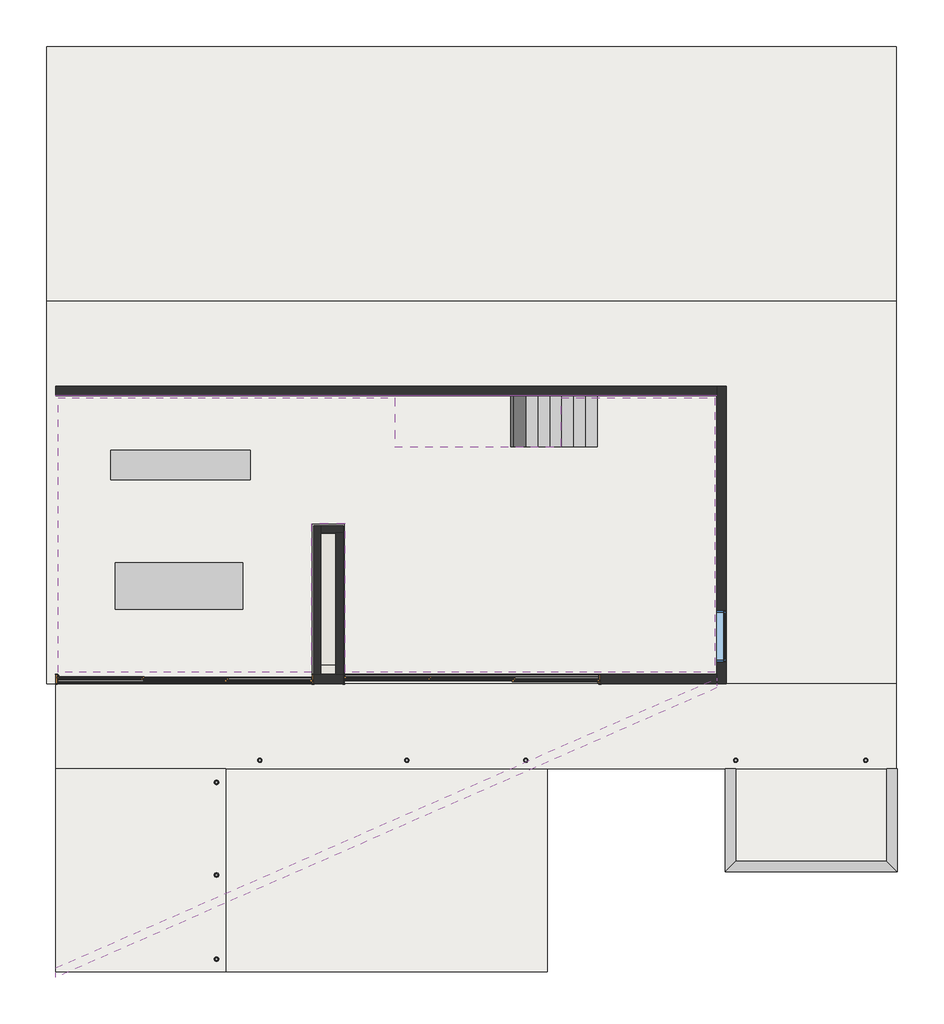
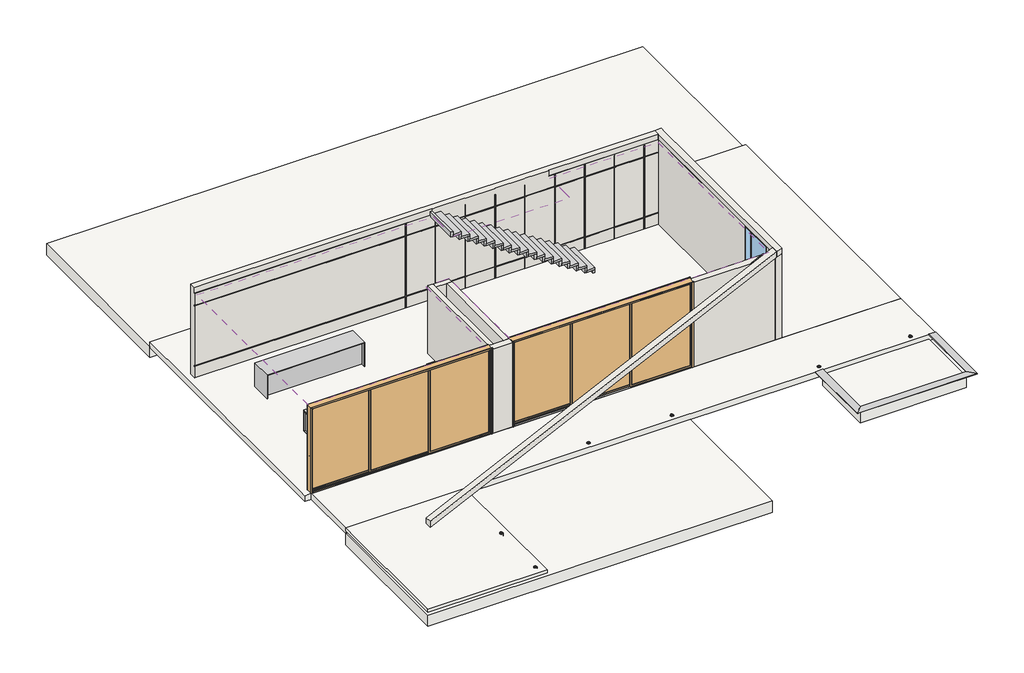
# One storey, incomplete: 12 proxies, 8 light fixtures, 8 walls, 7 slabs, 2 doors, 2 furniture elements, 1 covering, 1 stair flight, 1 window.
"""IFC4 building model written with IfcOpenShell, lengths in millimetres."""

from ifc_helpers import new_model, si_unit, point, frame, frame_2d, origin, place, context, project, spatial, polyline, circle_curve, trimmed, segment, composite_curve, outline, extrude, faceted_brep, transform, mapped, element, save
from components import generic_models_75064c97, door_300x600_54ae6d1d, furniture_6b048b13, mesa_industrial_001_mesa_industrial_001_cb8feb8a, light_fixture_10b4d906, stair_flight_5e0610f6, paredes_1_paredes_1_85ae5345, m_fixo_parede_completa_preta_3m_307ec9fa

model = new_model("IFC4")

# Units and contexts
model_context = context("Model", 3, world=origin())
ifc_project = project(units=[si_unit("LENGTHUNIT", "METRE", prefix="MILLI")], contexts=[model_context])

# Site, building, storey
site = spatial("IfcSite", under=ifc_project)
building = spatial("IfcBuilding", under=site)
storey = spatial("IfcBuildingStorey", under=building, Name="TÉRREO", Elevation=500.0)

# Proxies
placement = place(None, origin())
generic_models_shape = generic_models_75064c97(model_context)
element("IfcBuildingElementProxy", 1, Name="Modelos genéricos 1 : Modelos genéricos 1", ObjectType="Modelos genéricos 1 : Modelos genéricos 1", at=placement, inside=storey, context=model_context, shape_type="MappedRepresentation", body=[
    mapped(generic_models_shape, transform((0.0, 0.0, 0.0), x_axis=(1.0, 0.0, 0.0), y_axis=(0.0, 1.0, 0.0), z_axis=(0.0, 0.0, 1.0))),
])
element("IfcBuildingElementProxy", 2, Name="FRISO 01", ObjectType="FRISO 01", at=placement, inside=storey, context=model_context, shape_type="SweptSolid", body=[
    extrude(outline(polyline([(-4251.5118355, 7561.0881727), (-4221.5118355, 7561.0881727), (-4221.5118355, 7546.0881727), (-4251.5118355, 7546.0881727), (-4251.5118355, 7561.0881727)])), frame((0.0, 0.0, 500.0), z_axis=(0.0, 0.0, 1.0), x_axis=(1.0, 0.0, 0.0)), (0.0, 0.0, 1.0), 2972.0),
])
element("IfcBuildingElementProxy", 3, Name="FRISO 01", ObjectType="FRISO 01", at=placement, inside=storey, context=model_context, shape_type="SweptSolid", body=[
    extrude(outline(polyline([(-3251.5118355, 7561.0881727), (-3221.5118355, 7561.0881727), (-3221.5118355, 7546.0881727), (-3251.5118355, 7546.0881727), (-3251.5118355, 7561.0881727)])), frame((0.0, 0.0, 500.0), z_axis=(0.0, 0.0, 1.0), x_axis=(1.0, 0.0, 0.0)), (0.0, 0.0, 1.0), 2972.0),
])
element("IfcBuildingElementProxy", 4, Name="FRISO 01", ObjectType="FRISO 01", at=placement, inside=storey, context=model_context, shape_type="SweptSolid", body=[
    extrude(outline(polyline([(-2251.5118355, 7561.0881727), (-2221.5118355, 7561.0881727), (-2221.5118355, 7546.0881727), (-2251.5118355, 7546.0881727), (-2251.5118355, 7561.0881727)])), frame((0.0, 0.0, 500.0), z_axis=(0.0, 0.0, 1.0), x_axis=(1.0, 0.0, 0.0)), (0.0, 0.0, 1.0), 2972.0),
])
element("IfcBuildingElementProxy", 5, Name="FRISO 01", ObjectType="FRISO 01", at=placement, inside=storey, context=model_context, shape_type="SweptSolid", body=[
    extrude(outline(polyline([(-1251.5118355, 7561.0881727), (-1221.5118355, 7561.0881727), (-1221.5118355, 7546.0881727), (-1251.5118355, 7546.0881727), (-1251.5118355, 7561.0881727)])), frame((0.0, 0.0, 500.0), z_axis=(0.0, 0.0, 1.0), x_axis=(1.0, 0.0, 0.0)), (0.0, 0.0, 1.0), 2972.0),
])
element("IfcBuildingElementProxy", 6, Name="FRISO 01", ObjectType="FRISO 01", at=placement, inside=storey, context=model_context, shape_type="SweptSolid", body=[
    extrude(outline(polyline([(-251.5118355, 7561.0881727), (-221.5118355, 7561.0881727), (-221.5118355, 7546.0881727), (-251.5118355, 7546.0881727), (-251.5118355, 7561.0881727)])), frame((0.0, 0.0, 500.0), z_axis=(0.0, 0.0, 1.0), x_axis=(1.0, 0.0, 0.0)), (0.0, 0.0, 1.0), 2972.0),
])
element("IfcBuildingElementProxy", 7, Name="FRISO 01", ObjectType="FRISO 01", at=placement, inside=storey, context=model_context, shape_type="SweptSolid", body=[
    extrude(outline(polyline([(748.4881645, 7561.0881727), (778.4881645, 7561.0881727), (778.4881645, 7546.0881727), (748.4881645, 7546.0881727), (748.4881645, 7561.0881727)])), frame((0.0, 0.0, 500.0), z_axis=(0.0, 0.0, 1.0), x_axis=(1.0, 0.0, 0.0)), (0.0, 0.0, 1.0), 2972.0),
])
element("IfcBuildingElementProxy", 8, Name="FRISO 01", ObjectType="FRISO 01", at=placement, inside=storey, context=model_context, shape_type="SweptSolid", body=[
    extrude(outline(polyline([(1748.4881645, 7561.0881727), (1778.4881645, 7561.0881727), (1778.4881645, 7546.0881727), (1748.4881645, 7546.0881727), (1748.4881645, 7561.0881727)])), frame((0.0, 0.0, 500.0), z_axis=(0.0, 0.0, 1.0), x_axis=(1.0, 0.0, 0.0)), (0.0, 0.0, 1.0), 2972.0),
])
element("IfcBuildingElementProxy", 9, Name="FRISO 01", ObjectType="FRISO 01", at=placement, inside=storey, context=model_context, shape_type="SweptSolid", body=[
    extrude(outline(polyline([(2748.4881645, 7561.0881727), (2778.4881645, 7561.0881727), (2778.4881645, 7546.0881727), (2748.4881645, 7546.0881727), (2748.4881645, 7561.0881727)])), frame((0.0, 0.0, 500.0), z_axis=(0.0, 0.0, 1.0), x_axis=(1.0, 0.0, 0.0)), (0.0, 0.0, 1.0), 2972.0),
])
element("IfcBuildingElementProxy", 10, Name="FRISO 01", ObjectType="FRISO 01", at=placement, inside=storey, context=model_context, shape_type="SweptSolid", body=[
    extrude(outline(polyline([(3748.4881645, 7561.0881727), (3778.4881645, 7561.0881727), (3778.4881645, 7546.0881727), (3748.4881645, 7546.0881727), (3748.4881645, 7561.0881727)])), frame((0.0, 0.0, 500.0), z_axis=(0.0, 0.0, 1.0), x_axis=(1.0, 0.0, 0.0)), (0.0, 0.0, 1.0), 2972.0),
])
element("IfcBuildingElementProxy", 11, Name="FRISO 01", ObjectType="FRISO 01", at=placement, inside=storey, context=model_context, shape_type="SweptSolid", body=[
    extrude(outline(polyline([(4238.4881645, 7561.0881727), (4238.4881645, 7546.0881727), (-11321.5118355, 7546.0881727), (-11321.5118355, 7561.0881727), (4238.4881645, 7561.0881727)])), frame((0.0, 0.0, 3040.0), z_axis=(0.0, 0.0, 1.0), x_axis=(1.0, 0.0, 0.0)), (0.0, 0.0, 1.0), 30.0),
])
element("IfcBuildingElementProxy", 12, Name="FRISO 01", ObjectType="FRISO 01", at=placement, inside=storey, context=model_context, shape_type="SweptSolid", body=[
    extrude(outline(polyline([(4238.4881645, 7561.0881727), (4238.4881645, 7546.0881727), (-11321.5118355, 7546.0881727), (-11321.5118355, 7561.0881727), (4238.4881645, 7561.0881727)])), frame((0.0, 0.0, 900.0), z_axis=(0.0, 0.0, 1.0), x_axis=(1.0, 0.0, 0.0)), (0.0, 0.0, 1.0), 30.0),
])

# Covering
element("IfcCovering", 13, ObjectType="CE_Gesso", at=placement, inside=storey, context=model_context, shape_type="SweptSolid", body=[
    extrude(outline(polyline([(-11271.5118355, 1036.629058), (-11271.5118355, 7496.0881727), (-3341.5118355, 7496.0881727), (-3341.5118355, 6346.0881727), (568.4881645, 6346.0881727), (568.4881645, 7496.0881727), (4188.4881645, 7496.0881727), (4188.4881645, 1036.629058), (-4511.5118355, 1036.629058), (-4511.5118355, 4536.629058), (-5306.5118355, 4536.629058), (-5306.5118355, 1036.629058), (-11271.5118355, 1036.629058)])), frame((0.0, 0.0, 3460.0), z_axis=(0.0, 0.0, 1.0), x_axis=(1.0, 0.0, 0.0)), (0.0, 0.0, 1.0), 57.0),
])

# Doors
door_300x600_shape = door_300x600_54ae6d1d(model_context)
element("IfcDoor", 14, ObjectType="porta de correr uma direção : 300X600", at=placement, inside=storey, context=model_context, shape_type="MappedRepresentation", body=[
    mapped(door_300x600_shape, transform((-8291.5118355, 876.629058, 500.0), x_axis=(-1.0, 0.0, 0.0), y_axis=(0.0, -1.0, 0.0), z_axis=(0.0, 0.0, 1.0))),
])
element("IfcDoor", 15, ObjectType="porta de correr uma direção : 300X600", at=placement, inside=storey, context=model_context, shape_type="MappedRepresentation", body=[
    mapped(door_300x600_shape, transform((-1531.5118355, 876.629058, 500.0), x_axis=(1.0, 0.0, 0.0), y_axis=(0.0, 1.0, 0.0), z_axis=(0.0, 0.0, 1.0))),
])

# Furniture
furniture_shape = furniture_6b048b13(model_context)
element("IfcFurniture", 16, ObjectType="ILHA SALA 01 : ILHA SALA 01", at=placement, inside=storey, context=model_context, shape_type="MappedRepresentation", body=[
    mapped(furniture_shape, transform((0.0, 0.0, 0.0), x_axis=(1.0, 0.0, 0.0), y_axis=(0.0, 1.0, 0.0), z_axis=(0.0, 0.0, 1.0))),
])
mesa_industrial_001_mesa_industrial_001_shape = mesa_industrial_001_mesa_industrial_001_cb8feb8a(model_context)
element("IfcFurniture", 17, ObjectType="MESA INDUSTRIAL_001 : MESA INDUSTRIAL_001", at=placement, inside=storey, context=model_context, shape_type="MappedRepresentation", body=[
    mapped(mesa_industrial_001_mesa_industrial_001_shape, transform((-8421.5118355, 3066.0881727, 500.0), x_axis=(-1.0, 0.0, 0.0), y_axis=(0.0, -1.0, 0.0), z_axis=(0.0, 0.0, 1.0))),
])

# Light fixtures
light_fixture_shape = light_fixture_10b4d906(model_context)
element("IfcLightFixture", 18, ObjectType="Iluminação de caminho - Redonda embutida - Com base no chão : Iluminação de caminho - Redonda embutida - Com base no chão", at=placement, inside=storey, context=model_context, shape_type="MappedRepresentation", body=[
    mapped(light_fixture_shape, transform((-7541.5118355, -5713.9118273, 500.0), x_axis=(1.0, 0.0, 0.0), y_axis=(0.0, 1.0, 0.0), z_axis=(0.0, 0.0, 1.0))),
])
element("IfcLightFixture", 19, ObjectType="Iluminação de caminho - Redonda embutida - Com base no chão : Iluminação de caminho - Redonda embutida - Com base no chão", at=placement, inside=storey, context=model_context, shape_type="MappedRepresentation", body=[
    mapped(light_fixture_shape, transform((-7541.5118355, -1553.370942, 500.0), x_axis=(1.0, 0.0, 0.0), y_axis=(0.0, 1.0, 0.0), z_axis=(0.0, 0.0, 1.0))),
])
element("IfcLightFixture", 20, ObjectType="Iluminação de caminho - Redonda embutida - Com base no chão : Iluminação de caminho - Redonda embutida - Com base no chão", at=placement, inside=storey, context=model_context, shape_type="MappedRepresentation", body=[
    mapped(light_fixture_shape, transform((-7541.5118355, -3733.370942, 500.0), x_axis=(1.0, 0.0, 0.0), y_axis=(0.0, 1.0, 0.0), z_axis=(0.0, 0.0, 1.0))),
])
element("IfcLightFixture", 21, ObjectType="Iluminação de caminho - Redonda embutida - Com base no chão : Iluminação de caminho - Redonda embutida - Com base no chão", at=placement, inside=storey, context=model_context, shape_type="MappedRepresentation", body=[
    mapped(light_fixture_shape, transform((-6521.5118355, -1033.370942, 500.0), x_axis=(1.0, 0.0, 0.0), y_axis=(0.0, 1.0, 0.0), z_axis=(0.0, 0.0, 1.0))),
])
element("IfcLightFixture", 22, ObjectType="Iluminação de caminho - Redonda embutida - Com base no chão : Iluminação de caminho - Redonda embutida - Com base no chão", at=placement, inside=storey, context=model_context, shape_type="MappedRepresentation", body=[
    mapped(light_fixture_shape, transform((-3061.5118355, -1033.370942, 500.0), x_axis=(1.0, 0.0, 0.0), y_axis=(0.0, 1.0, 0.0), z_axis=(0.0, 0.0, 1.0))),
])
element("IfcLightFixture", 23, ObjectType="Iluminação de caminho - Redonda embutida - Com base no chão : Iluminação de caminho - Redonda embutida - Com base no chão", at=placement, inside=storey, context=model_context, shape_type="MappedRepresentation", body=[
    mapped(light_fixture_shape, transform((-261.5118355, -1033.370942, 500.0), x_axis=(1.0, 0.0, 0.0), y_axis=(0.0, 1.0, 0.0), z_axis=(0.0, 0.0, 1.0))),
])
element("IfcLightFixture", 24, ObjectType="Iluminação de caminho - Redonda embutida - Com base no chão : Iluminação de caminho - Redonda embutida - Com base no chão", at=placement, inside=storey, context=model_context, shape_type="MappedRepresentation", body=[
    mapped(light_fixture_shape, transform((4678.4881645, -1033.370942, 500.0), x_axis=(1.0, 0.0, 0.0), y_axis=(0.0, 1.0, 0.0), z_axis=(0.0, 0.0, 1.0))),
])
element("IfcLightFixture", 25, ObjectType="Iluminação de caminho - Redonda embutida - Com base no chão : Iluminação de caminho - Redonda embutida - Com base no chão", at=placement, inside=storey, context=model_context, shape_type="MappedRepresentation", body=[
    mapped(light_fixture_shape, transform((7738.4881645, -1033.370942, 500.0), x_axis=(1.0, 0.0, 0.0), y_axis=(0.0, 1.0, 0.0), z_axis=(0.0, 0.0, 1.0))),
])

# Slabs
element("IfcSlab", 26, ObjectType="Grama - Aterro - 40cm", at=placement, inside=storey, context=model_context, shape_type="SweptSolid", body=[
    extrude(outline(polyline([(-11541.5118355, 15766.0881727), (8458.4881645, 15766.0881727), (8458.4881645, 9766.0881727), (-11541.5118355, 9766.0881727), (-11541.5118355, 15766.0881727)])), frame((0.0, 0.0, -50.0), z_axis=(0.0, 0.0, 1.0), x_axis=(1.0, 0.0, 0.0)), (0.0, 0.0, 1.0), 400.0),
])
element("IfcSlab", 27, ObjectType="Grama - Aterro - 40cm", at=placement, inside=storey, context=model_context, shape_type="SweptSolid", body=[
    extrude(outline(polyline([(-11321.5118355, -1233.370942), (238.4881645, -1233.370942), (238.4881645, -6013.9118273), (-11321.5118355, -6013.9118273), (-11321.5118355, -1233.370942)])), frame((0.0, 0.0, -100.0), z_axis=(0.0, 0.0, 1.0), x_axis=(1.0, 0.0, 0.0)), (0.0, 0.0, 1.0), 400.0),
])
element("IfcSlab", 28, ObjectType="Grama - Aterro - 40cm", at=placement, inside=storey, context=model_context, shape_type="SweptSolid", body=[
    extrude(outline(polyline([(4678.4881645, -1233.370942), (8238.4881645, -1233.370942), (8238.4881645, -3413.370942), (4678.4881645, -3413.370942), (4678.4881645, -1233.370942)])), frame((0.0, 0.0, -50.0), z_axis=(0.0, 0.0, 1.0), x_axis=(1.0, 0.0, 0.0)), (0.0, 0.0, 1.0), 400.0),
])
element("IfcSlab", 29, ObjectType="Concreto Escuro - 20cm", at=placement, inside=storey, context=model_context, shape_type="SweptSolid", body=[
    extrude(outline(polyline([(-11321.5118355, -1233.370942), (-11321.5118355, 766.629058), (8458.4881645, 766.629058), (8458.4881645, -1233.370942), (-11321.5118355, -1233.370942)]), holes=[composite_curve([segment(trimmed(circle_curve(frame_2d((-6521.5118355, -1033.370942)), 51.0), [point((-6521.5118355, -1084.370942))], [point((-6521.5118355, -982.370942))], True, "CARTESIAN"), True, "CONTINUOUS"), segment(trimmed(circle_curve(frame_2d((-6521.5118355, -1033.370942)), 51.0), [point((-6521.5118355, -982.370942))], [point((-6521.5118355, -1084.370942))], True, "CARTESIAN"), True, "CONTINUOUS")], self_intersect=False), composite_curve([segment(trimmed(circle_curve(frame_2d((-3061.5118355, -1033.370942)), 51.0), [point((-3061.5118355, -1084.370942))], [point((-3061.5118355, -982.370942))], True, "CARTESIAN"), True, "CONTINUOUS"), segment(trimmed(circle_curve(frame_2d((-3061.5118355, -1033.370942)), 51.0), [point((-3061.5118355, -982.370942))], [point((-3061.5118355, -1084.370942))], True, "CARTESIAN"), True, "CONTINUOUS")], self_intersect=False), composite_curve([segment(trimmed(circle_curve(frame_2d((-261.5118355, -1033.370942)), 51.0), [point((-261.5118355, -1084.370942))], [point((-261.5118355, -982.370942))], True, "CARTESIAN"), True, "CONTINUOUS"), segment(trimmed(circle_curve(frame_2d((-261.5118355, -1033.370942)), 51.0), [point((-261.5118355, -982.370942))], [point((-261.5118355, -1084.370942))], True, "CARTESIAN"), True, "CONTINUOUS")], self_intersect=False), composite_curve([segment(trimmed(circle_curve(frame_2d((4678.4881645, -1033.370942)), 51.0), [point((4678.4881645, -1084.370942))], [point((4678.4881645, -982.370942))], True, "CARTESIAN"), True, "CONTINUOUS"), segment(trimmed(circle_curve(frame_2d((4678.4881645, -1033.370942)), 51.0), [point((4678.4881645, -982.370942))], [point((4678.4881645, -1084.370942))], True, "CARTESIAN"), True, "CONTINUOUS")], self_intersect=False), composite_curve([segment(trimmed(circle_curve(frame_2d((7738.4881645, -1033.370942)), 51.0), [point((7738.4881645, -1084.370942))], [point((7738.4881645, -982.370942))], True, "CARTESIAN"), True, "CONTINUOUS"), segment(trimmed(circle_curve(frame_2d((7738.4881645, -1033.370942)), 51.0), [point((7738.4881645, -982.370942))], [point((7738.4881645, -1084.370942))], True, "CARTESIAN"), True, "CONTINUOUS")], self_intersect=False)]), frame((0.0, 0.0, 300.0), z_axis=(0.0, 0.0, 1.0), x_axis=(1.0, 0.0, 0.0)), (0.0, 0.0, 1.0), 200.0),
])
element("IfcSlab", 30, ObjectType="Concreto Escuro - 20cm", at=placement, inside=storey, context=model_context, shape_type="SweptSolid", body=[
    extrude(outline(polyline([(-5256.5118355, 3996.629058), (-4561.5118355, 3996.629058), (-4561.5118355, 986.629058), (-5256.5118355, 986.629058), (-5256.5118355, 3996.629058)])), frame((0.0, 0.0, 500.0), z_axis=(0.0, 0.0, 1.0), x_axis=(1.0, 0.0, 0.0)), (0.0, 0.0, 1.0), 200.0),
])
element("IfcSlab", 31, ObjectType="Madeira Painel - 10cm", at=placement, inside=storey, context=model_context, shape_type="SweptSolid", body=[
    extrude(outline(polyline([(-7321.5118355, -1233.370942), (-7321.5118355, -6013.9118273), (-11321.5118355, -6013.9118273), (-11321.5118355, -1233.370942), (-7321.5118355, -1233.370942)]), holes=[composite_curve([segment(trimmed(circle_curve(frame_2d((-7541.5118355, -5713.9118273)), 51.0), [point((-7541.5118355, -5764.9118273))], [point((-7541.5118355, -5662.9118273))], True, "CARTESIAN"), True, "CONTINUOUS"), segment(trimmed(circle_curve(frame_2d((-7541.5118355, -5713.9118273)), 51.0), [point((-7541.5118355, -5662.9118273))], [point((-7541.5118355, -5764.9118273))], True, "CARTESIAN"), True, "CONTINUOUS")], self_intersect=False), composite_curve([segment(trimmed(circle_curve(frame_2d((-7541.5118355, -1553.370942)), 51.0), [point((-7541.5118355, -1604.370942))], [point((-7541.5118355, -1502.370942))], True, "CARTESIAN"), True, "CONTINUOUS"), segment(trimmed(circle_curve(frame_2d((-7541.5118355, -1553.370942)), 51.0), [point((-7541.5118355, -1502.370942))], [point((-7541.5118355, -1604.370942))], True, "CARTESIAN"), True, "CONTINUOUS")], self_intersect=False), composite_curve([segment(trimmed(circle_curve(frame_2d((-7541.5118355, -3733.370942)), 51.0), [point((-7541.5118355, -3784.370942))], [point((-7541.5118355, -3682.370942))], True, "CARTESIAN"), True, "CONTINUOUS"), segment(trimmed(circle_curve(frame_2d((-7541.5118355, -3733.370942)), 51.0), [point((-7541.5118355, -3682.370942))], [point((-7541.5118355, -3784.370942))], True, "CARTESIAN"), True, "CONTINUOUS")], self_intersect=False)]), frame((0.0, 0.0, 400.0), z_axis=(0.0, 0.0, 1.0), x_axis=(1.0, 0.0, 0.0)), (0.0, 0.0, 1.0), 100.0),
])
element("IfcSlab", 32, ObjectType="Piso Interno - 20cm", at=placement, inside=storey, context=model_context, shape_type="Brep", body=[
    faceted_brep([(8458.4881645, 9766.0881727, 300.0), (8458.4881645, 766.0881727, 300.0), (-11321.5118355, 766.0881727, 300.0), (-11541.5118355, 766.0881727, 300.0), (-11541.5118355, 7766.0881727, 300.0), (-11541.5118355, 9766.0881727, 300.0), (8458.4881645, 9766.0881727, 500.0), (-11541.5118355, 9766.0881727, 500.0), (-11541.5118355, 7766.0881727, 500.0), (-11541.5118355, 766.0881727, 500.0), (-11321.5118355, 766.0881727, 500.0), (8458.4881645, 766.0881727, 500.0)], [[[0, 1, 2, 3, 4, 5]], [[6, 7, 8, 9, 10, 11]], [[1, 0, 6, 11]], [[3, 2, 1, 11, 10, 9]], [[5, 4, 3, 9, 8, 7]], [[0, 5, 7, 6]]]),
])

# Stair flight
stair_flight_shape = stair_flight_5e0610f6(model_context)
element("IfcStairFlight", 33, ObjectType="PLISSADA 7CM", at=placement, inside=storey, context=model_context, shape_type="MappedRepresentation", body=[
    mapped(stair_flight_shape, transform((0.0, 0.0, 0.0), x_axis=(1.0, 0.0, 0.0), y_axis=(0.0, 1.0, 0.0), z_axis=(0.0, 0.0, 1.0))),
])

# Walls
element("IfcWall", 34, ObjectType="Parede Externa - 22cm", at=placement, inside=storey, context=model_context, shape_type="Brep", body=[
    faceted_brep([(4458.4881645, 7766.0881727, 3700.0), (4458.4881645, 7546.0881727, 3700.0), (4458.4881645, 6346.0881727, 3700.0), (4458.4881645, 3766.629058, 3700.0), (4458.4881645, 766.0881727, 3700.0), (4458.4881645, 766.0881727, 3500.0), (4458.4881645, 766.629058, 3500.0), (4458.4881645, 766.629058, 500.0), (4458.4881645, 1286.629058, 500.0), (4458.4881645, 1286.629058, 3500.0), (4458.4881645, 2486.629058, 3500.0), (4458.4881645, 2486.629058, 500.0), (4458.4881645, 7766.0881727, 500.0), (4238.4881645, 7766.0881727, 3700.0), (4238.4881645, 7766.0881727, 500.0), (4238.4881645, 7546.0881727, 500.0), (4238.4881645, 2486.629058, 500.0), (4238.4881645, 2486.629058, 3500.0), (4238.4881645, 7546.0881727, 3500.0), (4238.4881645, 7556.0881727, 3500.0), (4238.4881645, 7556.0881727, 3700.0), (4238.4881645, 1286.629058, 500.0), (4238.4881645, 986.629058, 500.0), (4238.4881645, 766.629058, 500.0), (4238.4881645, 766.629058, 3500.0), (4238.4881645, 669.7371133, 3500.0), (4238.4881645, 669.7371133, 3700.0), (4238.4881645, 898.9940663, 3700.0), (4238.4881645, 898.9940663, 3500.0), (4238.4881645, 986.629058, 3500.0), (4238.4881645, 1286.629058, 3500.0), (4248.4881645, 7556.0881727, 3700.0), (4248.4881645, 903.3736599, 3700.0), (4248.4881645, 2486.629058, 3500.0), (4248.4881645, 7556.0881727, 3500.0), (4248.4881645, 903.3736599, 3500.0), (4248.4881645, 1286.629058, 3500.0)], [[[0, 1, 2, 3, 4, 5, 6, 7, 8, 9, 10, 11, 12]], [[13, 14, 15, 16, 17, 18, 19, 20]], [[21, 22, 23, 24, 25, 26, 27, 28, 29, 30]], [[14, 12, 11, 16, 15]], [[8, 7, 23, 22, 21]], [[4, 3, 2, 1, 0, 13, 20, 31, 32, 27, 26]], [[0, 12, 14, 13]], [[33, 34, 19, 18, 17]], [[35, 36, 30, 29, 28]], [[34, 31, 20, 19]], [[31, 34, 33, 36, 35, 32]], [[32, 35, 28, 27]], [[11, 10, 33, 17, 16]], [[10, 9, 36, 33]], [[9, 8, 21, 30, 36]], [[25, 24, 6, 5]], [[7, 6, 24, 23]], [[5, 4, 26, 25]]]),
])
element("IfcWall", 35, ObjectType="Parede Externa - 22cm", at=placement, inside=storey, context=model_context, shape_type="Brep", body=[
    faceted_brep([(4238.4881645, 7766.0881727, 500.0), (-11321.5118355, 7766.0881727, 500.0), (-11321.5118355, 7766.0881727, 3700.0), (4238.4881645, 7766.0881727, 3700.0), (4238.4881645, 7546.0881727, 3500.0), (568.4881645, 7546.0881727, 3500.0), (568.4881645, 7546.0881727, 3700.0), (-225.9261097, 7546.0881727, 3700.0), (-255.9261097, 7546.0881727, 3700.0), (-1225.9261097, 7546.0881727, 3700.0), (-1255.9261097, 7546.0881727, 3700.0), (-2225.9261097, 7546.0881727, 3700.0), (-2255.9261097, 7546.0881727, 3700.0), (-3225.9261097, 7546.0881727, 3700.0), (-3255.9261097, 7546.0881727, 3700.0), (-3341.5118355, 7546.0881727, 3700.0), (-3341.5118355, 7546.0881727, 3500.0), (-11321.5118355, 7546.0881727, 3500.0), (-11321.5118355, 7546.0881727, 3070.0), (-4251.5118355, 7546.0881727, 3070.0), (-4251.5118355, 7546.0881727, 3472.0), (-4221.5118355, 7546.0881727, 3472.0), (-4221.5118355, 7546.0881727, 3070.0), (-3251.5118355, 7546.0881727, 3070.0), (-3251.5118355, 7546.0881727, 3472.0), (-3221.5118355, 7546.0881727, 3472.0), (-3221.5118355, 7546.0881727, 3070.0), (-2251.5118355, 7546.0881727, 3070.0), (-2251.5118355, 7546.0881727, 3472.0), (-2221.5118355, 7546.0881727, 3472.0), (-2221.5118355, 7546.0881727, 3070.0), (-1251.5118355, 7546.0881727, 3070.0), (-1251.5118355, 7546.0881727, 3472.0), (-1221.5118355, 7546.0881727, 3472.0), (-1221.5118355, 7546.0881727, 3070.0), (-251.5118355, 7546.0881727, 3070.0), (-251.5118355, 7546.0881727, 3472.0), (-221.5118355, 7546.0881727, 3472.0), (-221.5118355, 7546.0881727, 3070.0), (748.4881645, 7546.0881727, 3070.0), (748.4881645, 7546.0881727, 3472.0), (778.4881645, 7546.0881727, 3472.0), (778.4881645, 7546.0881727, 3070.0), (1748.4881645, 7546.0881727, 3070.0), (1748.4881645, 7546.0881727, 3472.0), (1778.4881645, 7546.0881727, 3472.0), (1778.4881645, 7546.0881727, 3070.0), (2748.4881645, 7546.0881727, 3070.0), (2748.4881645, 7546.0881727, 3472.0), (2778.4881645, 7546.0881727, 3472.0), (2778.4881645, 7546.0881727, 3070.0), (3748.4881645, 7546.0881727, 3070.0), (3748.4881645, 7546.0881727, 3472.0), (3778.4881645, 7546.0881727, 3472.0), (3778.4881645, 7546.0881727, 3070.0), (4238.4881645, 7546.0881727, 3070.0), (-11321.5118355, 7546.0881727, 500.0), (-4251.5118355, 7546.0881727, 500.0), (-4251.5118355, 7546.0881727, 900.0), (-11321.5118355, 7546.0881727, 900.0), (-4221.5118355, 7546.0881727, 500.0), (-3251.5118355, 7546.0881727, 500.0), (-3251.5118355, 7546.0881727, 900.0), (-4221.5118355, 7546.0881727, 900.0), (-3221.5118355, 7546.0881727, 500.0), (-2251.5118355, 7546.0881727, 500.0), (-2251.5118355, 7546.0881727, 900.0), (-3221.5118355, 7546.0881727, 900.0), (-2221.5118355, 7546.0881727, 500.0), (-1251.5118355, 7546.0881727, 500.0), (-1251.5118355, 7546.0881727, 900.0), (-2221.5118355, 7546.0881727, 900.0), (-1221.5118355, 7546.0881727, 500.0), (-251.5118355, 7546.0881727, 500.0), (-251.5118355, 7546.0881727, 900.0), (-1221.5118355, 7546.0881727, 900.0), (-221.5118355, 7546.0881727, 500.0), (748.4881645, 7546.0881727, 500.0), (748.4881645, 7546.0881727, 900.0), (-221.5118355, 7546.0881727, 900.0), (778.4881645, 7546.0881727, 500.0), (1748.4881645, 7546.0881727, 500.0), (1748.4881645, 7546.0881727, 900.0), (778.4881645, 7546.0881727, 900.0), (1778.4881645, 7546.0881727, 500.0), (2748.4881645, 7546.0881727, 500.0), (2748.4881645, 7546.0881727, 900.0), (1778.4881645, 7546.0881727, 900.0), (3778.4881645, 7546.0881727, 500.0), (4238.4881645, 7546.0881727, 500.0), (4238.4881645, 7546.0881727, 900.0), (3778.4881645, 7546.0881727, 900.0), (2778.4881645, 7546.0881727, 500.0), (3748.4881645, 7546.0881727, 500.0), (3748.4881645, 7546.0881727, 900.0), (2778.4881645, 7546.0881727, 900.0), (4238.4881645, 7546.0881727, 3040.0), (3778.4881645, 7546.0881727, 3040.0), (3778.4881645, 7546.0881727, 930.0), (4238.4881645, 7546.0881727, 930.0), (-4251.5118355, 7546.0881727, 3040.0), (-11321.5118355, 7546.0881727, 3040.0), (-11321.5118355, 7546.0881727, 930.0), (-4251.5118355, 7546.0881727, 930.0), (-3251.5118355, 7546.0881727, 3040.0), (-4221.5118355, 7546.0881727, 3040.0), (-4221.5118355, 7546.0881727, 930.0), (-3251.5118355, 7546.0881727, 930.0), (-2251.5118355, 7546.0881727, 3040.0), (-3221.5118355, 7546.0881727, 3040.0), (-3221.5118355, 7546.0881727, 930.0), (-2251.5118355, 7546.0881727, 930.0), (-1251.5118355, 7546.0881727, 3040.0), (-2221.5118355, 7546.0881727, 3040.0), (-2221.5118355, 7546.0881727, 930.0), (-1251.5118355, 7546.0881727, 930.0), (-251.5118355, 7546.0881727, 3040.0), (-1221.5118355, 7546.0881727, 3040.0), (-1221.5118355, 7546.0881727, 930.0), (-251.5118355, 7546.0881727, 930.0), (748.4881645, 7546.0881727, 3040.0), (-221.5118355, 7546.0881727, 3040.0), (-221.5118355, 7546.0881727, 930.0), (748.4881645, 7546.0881727, 930.0), (1748.4881645, 7546.0881727, 3040.0), (778.4881645, 7546.0881727, 3040.0), (778.4881645, 7546.0881727, 930.0), (1748.4881645, 7546.0881727, 930.0), (2748.4881645, 7546.0881727, 3040.0), (1778.4881645, 7546.0881727, 3040.0), (1778.4881645, 7546.0881727, 930.0), (2748.4881645, 7546.0881727, 930.0), (3748.4881645, 7546.0881727, 3040.0), (2778.4881645, 7546.0881727, 3040.0), (2778.4881645, 7546.0881727, 930.0), (3748.4881645, 7546.0881727, 930.0), (3778.4881645, 7561.0881727, 500.0), (3748.4881645, 7561.0881727, 500.0), (2778.4881645, 7561.0881727, 500.0), (2748.4881645, 7561.0881727, 500.0), (1778.4881645, 7561.0881727, 500.0), (1748.4881645, 7561.0881727, 500.0), (778.4881645, 7561.0881727, 500.0), (748.4881645, 7561.0881727, 500.0), (-221.5118355, 7561.0881727, 500.0), (-251.5118355, 7561.0881727, 500.0), (-1221.5118355, 7561.0881727, 500.0), (-1251.5118355, 7561.0881727, 500.0), (-2221.5118355, 7561.0881727, 500.0), (-2251.5118355, 7561.0881727, 500.0), (-3221.5118355, 7561.0881727, 500.0), (-3251.5118355, 7561.0881727, 500.0), (-4221.5118355, 7561.0881727, 500.0), (-4251.5118355, 7561.0881727, 500.0), (-11321.5118355, 7556.0881727, 3700.0), (-3341.5118355, 7556.0881727, 3700.0), (568.4881645, 7556.0881727, 3700.0), (4238.4881645, 7556.0881727, 3700.0), (4238.4881645, 7556.0881727, 3500.0), (4238.4881645, 7561.0881727, 3070.0), (4238.4881645, 7561.0881727, 3040.0), (4238.4881645, 7561.0881727, 930.0), (4238.4881645, 7561.0881727, 900.0), (-11321.5118355, 7561.0881727, 900.0), (-11321.5118355, 7561.0881727, 930.0), (-11321.5118355, 7561.0881727, 3040.0), (-11321.5118355, 7561.0881727, 3070.0), (-11321.5118355, 7556.0881727, 3500.0), (-3341.5118355, 7556.0881727, 3500.0), (568.4881645, 7556.0881727, 3500.0), (-4251.5118355, 7561.0881727, 3472.0), (-4221.5118355, 7561.0881727, 3472.0), (-4251.5118355, 7561.0881727, 3070.0), (-4251.5118355, 7561.0881727, 3040.0), (-4251.5118355, 7561.0881727, 930.0), (-4251.5118355, 7561.0881727, 900.0), (-4221.5118355, 7561.0881727, 900.0), (-3251.5118355, 7561.0881727, 900.0), (-3221.5118355, 7561.0881727, 900.0), (-2251.5118355, 7561.0881727, 900.0), (-2221.5118355, 7561.0881727, 900.0), (-1251.5118355, 7561.0881727, 900.0), (-1221.5118355, 7561.0881727, 900.0), (-251.5118355, 7561.0881727, 900.0), (-221.5118355, 7561.0881727, 900.0), (748.4881645, 7561.0881727, 900.0), (778.4881645, 7561.0881727, 900.0), (1748.4881645, 7561.0881727, 900.0), (1778.4881645, 7561.0881727, 900.0), (2748.4881645, 7561.0881727, 900.0), (2778.4881645, 7561.0881727, 900.0), (3748.4881645, 7561.0881727, 900.0), (3778.4881645, 7561.0881727, 900.0), (3778.4881645, 7561.0881727, 930.0), (3778.4881645, 7561.0881727, 3040.0), (3778.4881645, 7561.0881727, 3070.0), (3778.4881645, 7561.0881727, 3472.0), (3748.4881645, 7561.0881727, 3472.0), (3748.4881645, 7561.0881727, 3070.0), (2778.4881645, 7561.0881727, 3070.0), (2778.4881645, 7561.0881727, 3472.0), (2748.4881645, 7561.0881727, 3472.0), (2748.4881645, 7561.0881727, 3070.0), (1778.4881645, 7561.0881727, 3070.0), (1778.4881645, 7561.0881727, 3472.0), (1748.4881645, 7561.0881727, 3472.0), (1748.4881645, 7561.0881727, 3070.0), (778.4881645, 7561.0881727, 3070.0), (778.4881645, 7561.0881727, 3472.0), (748.4881645, 7561.0881727, 3472.0), (748.4881645, 7561.0881727, 3070.0), (-221.5118355, 7561.0881727, 3070.0), (-221.5118355, 7561.0881727, 3472.0), (-251.5118355, 7561.0881727, 3472.0), (-251.5118355, 7561.0881727, 3070.0), (-1221.5118355, 7561.0881727, 3070.0), (-1221.5118355, 7561.0881727, 3472.0), (-1251.5118355, 7561.0881727, 3472.0), (-1251.5118355, 7561.0881727, 3070.0), (-2221.5118355, 7561.0881727, 3070.0), (-2221.5118355, 7561.0881727, 3472.0), (-2251.5118355, 7561.0881727, 3472.0), (-2251.5118355, 7561.0881727, 3070.0), (-3221.5118355, 7561.0881727, 3070.0), (-3221.5118355, 7561.0881727, 3472.0), (-3251.5118355, 7561.0881727, 3472.0), (-3251.5118355, 7561.0881727, 3070.0), (-4221.5118355, 7561.0881727, 3070.0), (-3251.5118355, 7561.0881727, 3040.0), (-3251.5118355, 7561.0881727, 930.0), (-4221.5118355, 7561.0881727, 930.0), (-4221.5118355, 7561.0881727, 3040.0), (-2251.5118355, 7561.0881727, 3040.0), (-2251.5118355, 7561.0881727, 930.0), (-3221.5118355, 7561.0881727, 930.0), (-3221.5118355, 7561.0881727, 3040.0), (-1251.5118355, 7561.0881727, 3040.0), (-1251.5118355, 7561.0881727, 930.0), (-2221.5118355, 7561.0881727, 930.0), (-2221.5118355, 7561.0881727, 3040.0), (-251.5118355, 7561.0881727, 3040.0), (-251.5118355, 7561.0881727, 930.0), (-1221.5118355, 7561.0881727, 930.0), (-1221.5118355, 7561.0881727, 3040.0), (748.4881645, 7561.0881727, 3040.0), (748.4881645, 7561.0881727, 930.0), (-221.5118355, 7561.0881727, 930.0), (-221.5118355, 7561.0881727, 3040.0), (1748.4881645, 7561.0881727, 3040.0), (1748.4881645, 7561.0881727, 930.0), (778.4881645, 7561.0881727, 930.0), (778.4881645, 7561.0881727, 3040.0), (2748.4881645, 7561.0881727, 3040.0), (2748.4881645, 7561.0881727, 930.0), (1778.4881645, 7561.0881727, 930.0), (1778.4881645, 7561.0881727, 3040.0), (3748.4881645, 7561.0881727, 3040.0), (3748.4881645, 7561.0881727, 930.0), (2778.4881645, 7561.0881727, 930.0), (2778.4881645, 7561.0881727, 3040.0)], [[[0, 1, 2, 3]], [[4, 5, 6, 7, 8, 9, 10, 11, 12, 13, 14, 15, 16, 17, 18, 19, 20, 21, 22, 23, 24, 25, 26, 27, 28, 29, 30, 31, 32, 33, 34, 35, 36, 37, 38, 39, 40, 41, 42, 43, 44, 45, 46, 47, 48, 49, 50, 51, 52, 53, 54, 55]], [[56, 57, 58, 59]], [[60, 61, 62, 63]], [[64, 65, 66, 67]], [[68, 69, 70, 71]], [[72, 73, 74, 75]], [[76, 77, 78, 79]], [[80, 81, 82, 83]], [[84, 85, 86, 87]], [[88, 89, 90, 91]], [[92, 93, 94, 95]], [[96, 97, 98, 99]], [[100, 101, 102, 103]], [[104, 105, 106, 107]], [[108, 109, 110, 111]], [[112, 113, 114, 115]], [[116, 117, 118, 119]], [[120, 121, 122, 123]], [[124, 125, 126, 127]], [[128, 129, 130, 131]], [[132, 133, 134, 135]], [[1, 0, 89, 88, 136, 137, 93, 92, 138, 139, 85, 84, 140, 141, 81, 80, 142, 143, 77, 76, 144, 145, 73, 72, 146, 147, 69, 68, 148, 149, 65, 64, 150, 151, 61, 60, 152, 153, 57, 56]], [[3, 2, 154, 155, 15, 14, 13, 12, 11, 10, 9, 8, 7, 6, 156, 157]], [[0, 3, 157, 158, 4, 55, 159, 160, 96, 99, 161, 162, 90, 89]], [[2, 1, 56, 59, 163, 164, 102, 101, 165, 166, 18, 17, 167, 154]], [[167, 17, 16, 168]], [[158, 169, 5, 4]], [[169, 158, 157, 156]], [[168, 155, 154, 167]], [[155, 168, 16, 15]], [[169, 156, 6, 5]], [[20, 170, 171, 21]], [[171, 170, 172, 166, 165, 173, 174, 164, 163, 175, 153, 152, 176, 177, 151, 150, 178, 179, 149, 148, 180, 181, 147, 146, 182, 183, 145, 144, 184, 185, 143, 142, 186, 187, 141, 140, 188, 189, 139, 138, 190, 191, 137, 136, 192, 162, 161, 193, 194, 160, 159, 195, 196, 197, 198, 199, 200, 201, 202, 203, 204, 205, 206, 207, 208, 209, 210, 211, 212, 213, 214, 215, 216, 217, 218, 219, 220, 221, 222, 223, 224, 225, 226, 227], [228, 229, 230, 231], [232, 233, 234, 235], [236, 237, 238, 239], [240, 241, 242, 243], [244, 245, 246, 247], [248, 249, 250, 251], [252, 253, 254, 255], [256, 257, 258, 259]], [[21, 171, 227, 22]], [[152, 60, 63, 176]], [[105, 231, 230, 106]], [[170, 20, 19, 172]], [[57, 153, 175, 58]], [[173, 100, 103, 174]], [[24, 225, 224, 25]], [[25, 224, 223, 26]], [[150, 64, 67, 178]], [[109, 235, 234, 110]], [[225, 24, 23, 226]], [[61, 151, 177, 62]], [[228, 104, 107, 229]], [[28, 221, 220, 29]], [[29, 220, 219, 30]], [[148, 68, 71, 180]], [[113, 239, 238, 114]], [[221, 28, 27, 222]], [[65, 149, 179, 66]], [[232, 108, 111, 233]], [[32, 217, 216, 33]], [[33, 216, 215, 34]], [[146, 72, 75, 182]], [[117, 243, 242, 118]], [[217, 32, 31, 218]], [[69, 147, 181, 70]], [[236, 112, 115, 237]], [[36, 213, 212, 37]], [[37, 212, 211, 38]], [[144, 76, 79, 184]], [[121, 247, 246, 122]], [[213, 36, 35, 214]], [[73, 145, 183, 74]], [[240, 116, 119, 241]], [[40, 209, 208, 41]], [[41, 208, 207, 42]], [[142, 80, 83, 186]], [[125, 251, 250, 126]], [[209, 40, 39, 210]], [[77, 143, 185, 78]], [[244, 120, 123, 245]], [[44, 205, 204, 45]], [[45, 204, 203, 46]], [[140, 84, 87, 188]], [[129, 255, 254, 130]], [[205, 44, 43, 206]], [[81, 141, 187, 82]], [[248, 124, 127, 249]], [[48, 201, 200, 49]], [[49, 200, 199, 50]], [[138, 92, 95, 190]], [[133, 259, 258, 134]], [[201, 48, 47, 202]], [[85, 139, 189, 86]], [[252, 128, 131, 253]], [[52, 197, 196, 53]], [[53, 196, 195, 54]], [[136, 88, 91, 192]], [[97, 194, 193, 98]], [[197, 52, 51, 198]], [[93, 137, 191, 94]], [[256, 132, 135, 257]], [[166, 172, 19, 18]], [[227, 226, 23, 22]], [[223, 222, 27, 26]], [[219, 218, 31, 30]], [[215, 214, 35, 34]], [[211, 210, 39, 38]], [[207, 206, 43, 42]], [[203, 202, 47, 46]], [[199, 198, 51, 50]], [[195, 159, 55, 54]], [[173, 165, 101, 100]], [[228, 231, 105, 104]], [[232, 235, 109, 108]], [[236, 239, 113, 112]], [[240, 243, 117, 116]], [[244, 247, 121, 120]], [[248, 251, 125, 124]], [[252, 255, 129, 128]], [[256, 259, 133, 132]], [[160, 194, 97, 96]], [[164, 174, 103, 102]], [[230, 229, 107, 106]], [[234, 233, 111, 110]], [[238, 237, 115, 114]], [[242, 241, 119, 118]], [[246, 245, 123, 122]], [[250, 249, 127, 126]], [[254, 253, 131, 130]], [[258, 257, 135, 134]], [[193, 161, 99, 98]], [[175, 163, 59, 58]], [[177, 176, 63, 62]], [[179, 178, 67, 66]], [[181, 180, 71, 70]], [[183, 182, 75, 74]], [[185, 184, 79, 78]], [[187, 186, 83, 82]], [[189, 188, 87, 86]], [[191, 190, 95, 94]], [[162, 192, 91, 90]]]),
])
element("IfcWall", 36, ObjectType="Parede Externa - 22cm", at=placement, inside=storey, context=model_context, shape_type="Brep", body=[
    faceted_brep([(-11321.5118355, -6144.9105426, 3500.0), (4238.4881645, 669.7371133, 3500.0), (4238.4881645, 669.7371133, 3700.0), (-11321.5118355, -6144.9105426, 3700.0), (-11321.5118355, -5915.6535896, 3500.0), (4238.4881645, 898.9940663, 3500.0), (4238.4881645, 766.629058, 3500.0), (4238.4881645, 898.9940663, 3700.0), (-11321.5118355, -5915.6535896, 3700.0)], [[[0, 1, 2, 3]], [[1, 0, 4, 5, 6]], [[3, 2, 7, 8]], [[0, 3, 8, 4]], [[5, 4, 8, 7]], [[2, 1, 6, 5, 7]]]),
])
element("IfcWall", 37, ObjectType="Parede Externa - 22cm", at=placement, inside=storey, context=model_context, shape_type="Brep", body=[
    faceted_brep([(4238.4881645, 986.629058, 500.0), (1498.4881645, 986.629058, 500.0), (1498.4881645, 986.629058, 3500.0), (3944.4369675, 986.629058, 3500.0), (3944.4369675, 986.629058, 3520.0), (3994.290898, 986.629058, 3520.0), (3994.290898, 986.629058, 3500.0), (4238.4881645, 986.629058, 3500.0), (1498.4881645, 766.629058, 500.0), (4238.4881645, 766.629058, 500.0), (4238.4881645, 766.629058, 3500.0), (3491.9611852, 766.629058, 3500.0), (3491.9611852, 766.629058, 3520.0), (3442.1072547, 766.629058, 3520.0), (3442.1072547, 766.629058, 3500.0), (1498.4881645, 766.629058, 3500.0), (4238.4881645, 898.9940663, 3500.0)], [[[0, 1, 2, 3, 4, 5, 6, 7]], [[8, 9, 10, 11, 12, 13, 14, 15]], [[8, 1, 0, 9]], [[1, 8, 15, 2]], [[7, 6, 11, 10, 16]], [[14, 3, 2, 15]], [[0, 7, 16, 10, 9]], [[4, 13, 12, 5]], [[3, 14, 13, 4]], [[11, 6, 5, 12]]]),
    faceted_brep([(-4561.5118355, 986.629058, 500.0), (-5261.5118355, 986.629058, 500.0), (-5261.5118355, 986.629058, 3500.0), (-5256.5118355, 986.629058, 3500.0), (-5086.5118355, 986.629058, 3500.0), (-4731.5118355, 986.629058, 3500.0), (-4561.5118355, 986.629058, 3500.0), (-4561.5118355, 986.629058, 1100.0), (-5261.5118355, 766.629058, 500.0), (-4561.5118355, 766.629058, 500.0), (-4561.5118355, 766.629058, 3500.0), (-5261.5118355, 766.629058, 3500.0)], [[[0, 1, 2, 3, 4, 5, 6, 7]], [[8, 9, 10, 11]], [[8, 1, 0, 9]], [[1, 8, 11, 2]], [[9, 0, 7, 6, 10]], [[6, 5, 4, 3, 2, 11, 10]]]),
])
element("IfcWall", 38, ObjectType="Parede Interna - 17 cm", at=placement, inside=storey, context=model_context, shape_type="Brep", body=[
    faceted_brep([(-5086.5118355, 986.629058, 1100.0), (-5086.5118355, 4316.629058, 1100.0), (-5086.5118355, 4486.629058, 1100.0), (-5086.5118355, 4486.629058, 3500.0), (-5086.5118355, 4316.629058, 3500.0), (-5086.5118355, 986.629058, 3500.0), (-5256.5118355, 4486.629058, 1100.0), (-5256.5118355, 986.629058, 1100.0), (-5256.5118355, 986.629058, 3500.0), (-5256.5118355, 4486.629058, 3500.0)], [[[0, 1, 2, 3, 4, 5]], [[6, 7, 8, 9]], [[2, 1, 0, 7, 6]], [[2, 6, 9, 3]], [[7, 0, 5, 8]], [[5, 4, 3, 9, 8]]]),
])
element("IfcWall", 39, ObjectType="Parede Interna - 17 cm", at=placement, inside=storey, context=model_context, shape_type="Brep", body=[
    faceted_brep([(-5086.5118355, 4316.629058, 1100.0), (-4731.5118355, 4316.629058, 1100.0), (-4561.5118355, 4316.629058, 1100.0), (-4561.5118355, 4316.629058, 3500.0), (-4731.5118355, 4316.629058, 3500.0), (-5086.5118355, 4316.629058, 3500.0), (-4561.5118355, 4486.629058, 1100.0), (-5086.5118355, 4486.629058, 1100.0), (-5086.5118355, 4486.629058, 3500.0), (-4561.5118355, 4486.629058, 3500.0)], [[[0, 1, 2, 3, 4, 5]], [[6, 7, 8, 9]], [[2, 1, 0, 7, 6]], [[7, 0, 5, 8]], [[2, 6, 9, 3]], [[5, 4, 3, 9, 8]]]),
])
element("IfcWall", 40, ObjectType="Parede Interna - 17 cm", at=placement, inside=storey, context=model_context, shape_type="SweptSolid", body=[
    extrude(outline(polyline([(-4731.5118355, 986.629058), (-4731.5118355, 4316.629058), (-4561.5118355, 4316.629058), (-4561.5118355, 986.629058), (-4731.5118355, 986.629058)])), frame((0.0, 0.0, 1100.0), z_axis=(0.0, 0.0, 1.0), x_axis=(1.0, 0.0, 0.0)), (0.0, 0.0, 1.0), 2400.0),
])
paredes_1_paredes_1_shape = paredes_1_paredes_1_85ae5345(model_context)
element("IfcWall", 41, ObjectType="Paredes 1 : Paredes 1", at=placement, inside=storey, context=model_context, shape_type="MappedRepresentation", body=[
    mapped(paredes_1_paredes_1_shape, transform((0.0, 0.0, 0.0), x_axis=(1.0, 0.0, 0.0), y_axis=(0.0, 1.0, 0.0), z_axis=(0.0, 0.0, 1.0))),
])

# Window
m_fixo_parede_completa_preta_3m_shape = m_fixo_parede_completa_preta_3m_307ec9fa(model_context)
element("IfcWindow", 42, ObjectType="M_Fixo : PAREDE COMPLETA - PRETA - 3m", at=placement, inside=storey, context=model_context, shape_type="MappedRepresentation", body=[
    mapped(m_fixo_parede_completa_preta_3m_shape, transform((4335.4881645, 1886.629058, -1000.0), x_axis=(0.0, -1.0, 0.0), y_axis=(1.0, 0.0, 0.0), z_axis=(0.0, 0.0, 1.0))),
])

save(model, "model.ifc")
